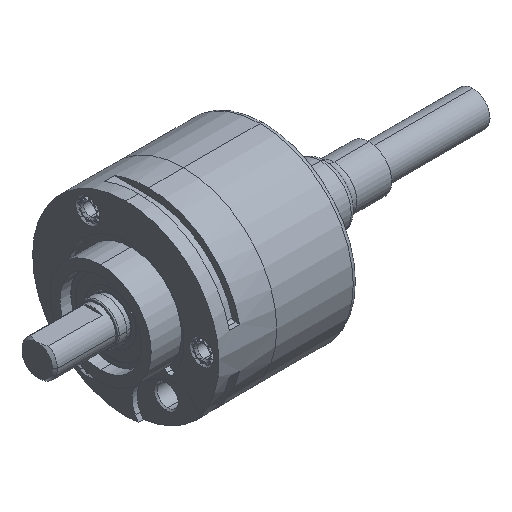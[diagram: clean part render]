
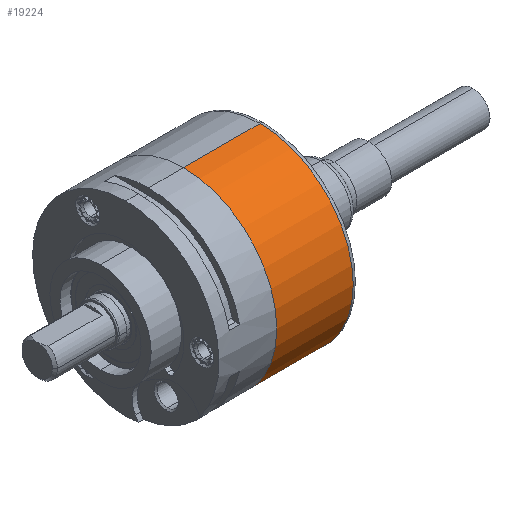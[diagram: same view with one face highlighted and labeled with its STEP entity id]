
A CAD part, isometric view. The second image highlights one B-rep face of the part: STEP entity #19224.
In plain terms, the highlighted cylindrical face has radius 18.4 mm (diameter 36.8 mm), a partial arc.
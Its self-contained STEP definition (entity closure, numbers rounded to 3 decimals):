
#18411 = VERTEX_POINT ( 'NONE', #42935 ) ;
#18617 = EDGE_CURVE ( 'NONE', #19551, #18665, #43215, .T. ) ;
#18665 = VERTEX_POINT ( 'NONE', #43420 ) ;
#18666 = EDGE_CURVE ( 'NONE', #19640, #18411, #43434, .T. ) ;
#18847 = EDGE_CURVE ( 'NONE', #18411, #18665, #43743, .T. ) ;
#19003 = ORIENTED_EDGE ( 'NONE', *, *, #19036, .T. ) ;
#19036 = EDGE_CURVE ( 'NONE', #19640, #19551, #43885, .T. ) ;
#19037 = ORIENTED_EDGE ( 'NONE', *, *, #18617, .T. ) ;
#19215 = ORIENTED_EDGE ( 'NONE', *, *, #18847, .F. ) ;
#19224 = ADVANCED_FACE ( 'NONE', ( #44031 ), #44118, .T. ) ;
#19225 = EDGE_LOOP ( 'NONE', ( #19235, #19003, #19037, #19215 ) ) ;
#19235 = ORIENTED_EDGE ( 'NONE', *, *, #18666, .F. ) ;
#19551 = VERTEX_POINT ( 'NONE', #45253 ) ;
#19640 = VERTEX_POINT ( 'NONE', #45356 ) ;
#42935 = CARTESIAN_POINT ( 'NONE',  ( -35.711, 5.115, -18.4 ) ) ;
#43174 = DIRECTION ( 'NONE',  ( -1., 0., 0. ) ) ;
#43176 = VECTOR ( 'NONE', #43174, 1000. ) ;
#43178 = CARTESIAN_POINT ( 'NONE',  ( -35.111, 5.115, 18.4 ) ) ;
#43215 = LINE ( 'NONE', #43178, #43176 ) ;
#43420 = CARTESIAN_POINT ( 'NONE',  ( -35.711, 5.115, 18.4 ) ) ;
#43432 = CARTESIAN_POINT ( 'NONE',  ( -35.111, 5.115, -18.4 ) ) ;
#43434 = LINE ( 'NONE', #43432, #43586 ) ;
#43584 = DIRECTION ( 'NONE',  ( -1., 0., 0. ) ) ;
#43586 = VECTOR ( 'NONE', #43584, 1000. ) ;
#43739 = DIRECTION ( 'NONE',  ( 0., 0., 1. ) ) ;
#43740 = DIRECTION ( 'NONE',  ( -1., 0., 0. ) ) ;
#43741 = CARTESIAN_POINT ( 'NONE',  ( -35.711, 5.115, 0. ) ) ;
#43742 = AXIS2_PLACEMENT_3D ( 'NONE', #43741, #43740, #43739 ) ;
#43743 = CIRCLE ( 'NONE', #43742, 18.4 ) ;
#43881 = DIRECTION ( 'NONE',  ( 0., 0., 1. ) ) ;
#43882 = DIRECTION ( 'NONE',  ( -1., 0., 0. ) ) ;
#43883 = CARTESIAN_POINT ( 'NONE',  ( -20.611, 5.115, 0. ) ) ;
#43884 = AXIS2_PLACEMENT_3D ( 'NONE', #43883, #43882, #43881 ) ;
#43885 = CIRCLE ( 'NONE', #43884, 18.4 ) ;
#44031 = FACE_OUTER_BOUND ( 'NONE', #19225, .T. ) ;
#44115 = DIRECTION ( 'NONE',  ( 0., 0., 1. ) ) ;
#44116 = DIRECTION ( 'NONE',  ( -1., 0., 0. ) ) ;
#44117 = AXIS2_PLACEMENT_3D ( 'NONE', #44121, #44116, #44115 ) ;
#44118 = CYLINDRICAL_SURFACE ( 'NONE', #44117, 18.4 ) ;
#44121 = CARTESIAN_POINT ( 'NONE',  ( -35.111, 5.115, 0. ) ) ;
#45253 = CARTESIAN_POINT ( 'NONE',  ( -20.611, 5.115, 18.4 ) ) ;
#45356 = CARTESIAN_POINT ( 'NONE',  ( -20.611, 5.115, -18.4 ) ) ;
